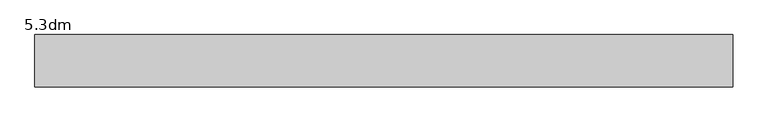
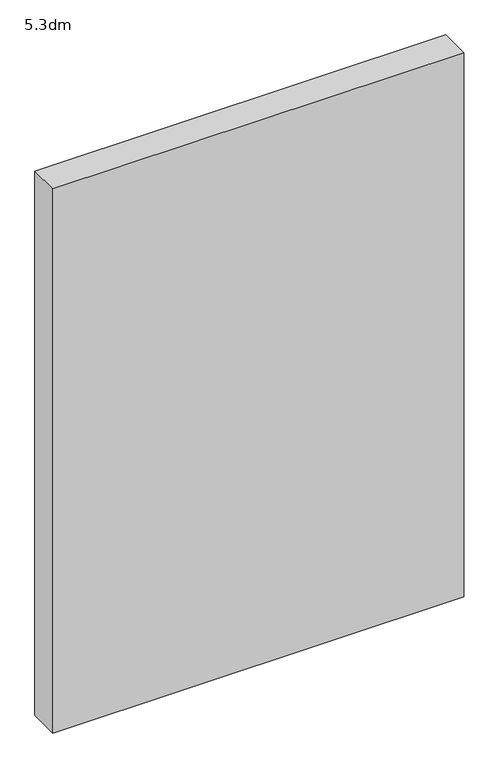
"""IFC4 building model written with IfcOpenShell, lengths in millimetres: proxy geometry, 5.3dm."""

from ifc_helpers import new_model, si_unit, origin, origin_with_axes, place, context, project, spatial, polyline, outline, extrude, source, transform, mapped, element, save


def proxy_5_3dm_5162e69e(model_context):
    return source(origin(), model_context, "Body", "SweptSolid", [
        extrude(outline(polyline([(9016.0, 6.0), (9016.0, 156.0), (11016.0, 156.0), (11016.0, 6.0), (9016.0, 6.0)])), origin_with_axes(), (0.0, 0.0, 1.0), 2800.0),
    ])


if __name__ == "__main__":
    model = new_model("IFC4")
    model_context = context("Model", 3, world=origin())
    ifc_project = project(units=[si_unit("LENGTHUNIT", "METRE", prefix="MILLI")], contexts=[model_context])
    site = spatial("IfcSite", under=ifc_project)
    building = spatial("IfcBuilding", under=site)
    placement = place(None, origin())
    proxy_5_3dm_shape = proxy_5_3dm_5162e69e(model_context)
    element("IfcBuildingElementProxy", 1, Name="5.3dm", ObjectType="5.3dm", at=placement, inside=building, context=model_context, shape_type="MappedRepresentation", body=[
        mapped(proxy_5_3dm_shape, transform((0.0, 0.0, 0.0), x_axis=(1.0, 0.0, 0.0), y_axis=(0.0, 1.0, 0.0), z_axis=(0.0, 0.0, 1.0))),
    ])
    save(model, "model.ifc")
